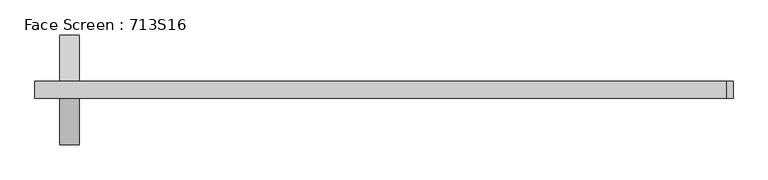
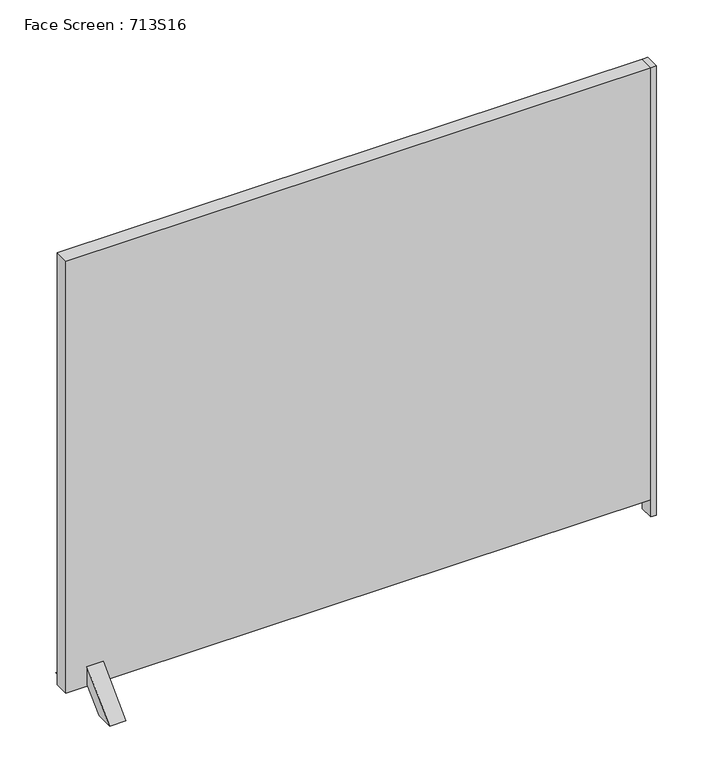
"""IFC4 building model written with IfcOpenShell, lengths in millimetres: furniture geometry, Face Screen : 713S16."""

from ifc_helpers import new_model, si_unit, frame, origin, origin_with_axes, place, context, project, spatial, polyline, outline, extrude, faceted_brep, source, transform, mapped, element, save


def face_screen_713s16_5315decc(model_context):
    return source(origin(), model_context, "Body", "SolidModel", [
        extrude(outline(polyline([(800.0, -20.0), (800.0, 20.0), (815.0, 20.0), (815.0, -20.0), (800.0, -20.0)])), origin_with_axes(), (0.0, 0.0, 1.0), 1300.0),
        faceted_brep([(-709.0, 20.0, 50.0955899), (-709.0, -20.0, 50.0955899), (-709.0, -20.0, 57.4960966), (-709.0, -37.6776695, 39.8184271), (-709.0, 37.6776695, 39.8184271), (-709.0, 20.0, 57.4960966), (-697.5, -126.9935713, 0.0), (-697.5, -20.0, 106.9935713), (-742.5, -20.0, 106.9935713), (-742.5, -126.9935713, 0.0), (-697.5, -77.4960966, 0.0), (-742.5, -77.4960966, 0.0), (-697.5, -20.0, 57.4960966), (-742.5, -20.0, 57.4960966), (-731.0, -20.0, 57.4960966), (-731.0, -37.6776695, 39.8184271), (-731.0, 20.0, 50.0955899), (-731.0, 20.0, 57.4960966), (-731.0, 37.6776695, 39.8184271), (-731.0, -20.0, 50.0955899), (-697.5, 20.0, 57.4960966), (-697.5, 20.0, 106.9935713), (-742.5, 20.0, 106.9935713), (-742.5, 20.0, 57.4960966), (-697.5, 77.4960966, 0.0), (-697.5, 126.9935713, 0.0), (-742.5, 126.9935713, 0.0), (-742.5, 77.4960966, 0.0)], [[[0, 1, 2, 3, 4, 5]], [[6, 7, 8, 9]], [[10, 6, 9, 11]], [[12, 10, 11, 13, 14, 15, 3, 2]], [[16, 17, 18, 15, 14, 19]], [[1, 0, 16, 19]], [[2, 1, 19, 14, 13, 8, 7, 12]], [[4, 3, 15, 18]], [[0, 5, 20, 21, 22, 23, 17, 16]], [[21, 20, 24, 25]], [[7, 6, 10, 12]], [[8, 13, 11, 9]], [[22, 26, 27, 23]], [[24, 20, 5, 4, 18, 17, 23, 27]], [[25, 24, 27, 26]], [[21, 25, 26, 22]]]),
        extrude(outline(polyline([(800.0, -20.0), (-800.0, -20.0), (-800.0, 20.0), (800.0, 20.0), (800.0, -20.0)])), frame((0.0, 0.0, 50.0), z_axis=(0.0, 0.0, 1.0), x_axis=(1.0, 0.0, 0.0)), (0.0, 0.0, 1.0), 1250.0),
    ])


if __name__ == "__main__":
    model = new_model("IFC4")
    model_context = context("Model", 3, world=origin())
    ifc_project = project(units=[si_unit("LENGTHUNIT", "METRE", prefix="MILLI")], contexts=[model_context])
    site = spatial("IfcSite", under=ifc_project)
    building = spatial("IfcBuilding", under=site)
    placement = place(None, origin())
    face_screen_713s16_shape = face_screen_713s16_5315decc(model_context)
    element("IfcFurniture", 1, ObjectType="Face Screen : 713S16", at=placement, inside=building, context=model_context, shape_type="MappedRepresentation", body=[
        mapped(face_screen_713s16_shape, transform((0.0, 0.0, 0.0), x_axis=(1.0, 0.0, 0.0), y_axis=(0.0, 1.0, 0.0), z_axis=(0.0, 0.0, 1.0))),
    ])
    save(model, "model.ifc")
